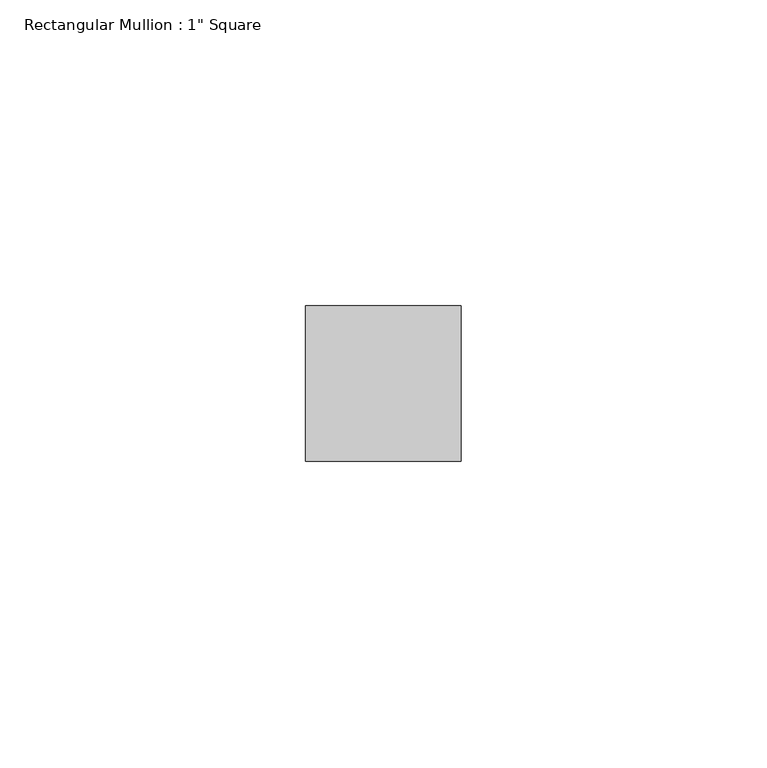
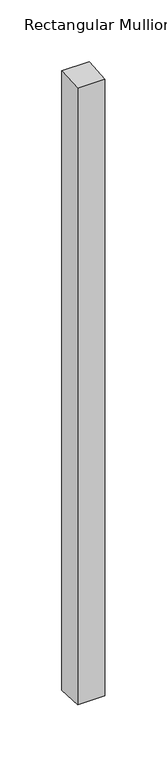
"""IFC4 building model written with IfcOpenShell, lengths in millimetres: member geometry."""

import ifcopenshell
import ifcopenshell.guid

model = None  # the IFC model being written
_history = None  # IfcOwnerHistory: only IFC2X3 demands one
_inside = {}  # id of a spatial element -> (the spatial element, [elements in it])
_under = {}  # id of a project, library or spatial element -> (it, [spatial elements below it])
_declared = {}  # id of a project -> (the project, [libraries it declares])
_typed = {}  # id of a type object -> (the type object, [elements of that type])
_made_of = {}  # id of a material, layer set ... -> (it, [elements and type objects made of it])


def new_model(schema):
    """Start an empty IFC model of exactly this schema.

    Asked for "IFC4X3", IfcOpenShell would pick the latest addendum, in which some entities
    have other attributes; the version numbers below select the first issue.
    IFC2X3 requires an IfcOwnerHistory on every rooted entity: one is made here for all.
    """
    global model, _history
    if schema == "IFC4X3":
        model = ifcopenshell.file(schema_version=(4, 3, 0, 0))
    else:
        model = ifcopenshell.file(schema=schema)
    _inside.clear()
    _under.clear()
    _declared.clear()
    _typed.clear()
    _made_of.clear()
    _history = None
    if model.schema == "IFC2X3":
        org = make("IfcOrganization", Name="unknown")
        user = make(
            "IfcPersonAndOrganization",
            ThePerson=make("IfcPerson", FamilyName="unknown"),
            TheOrganization=org,
        )
        app = make(
            "IfcApplication",
            ApplicationDeveloper=org,
            Version="unknown",
            ApplicationFullName="unknown",
            ApplicationIdentifier="unknown",
        )
        _history = make(
            "IfcOwnerHistory",
            OwningUser=user,
            OwningApplication=app,
            ChangeAction="ADDED",
            CreationDate=0,
        )
    return model


def make(cls, **values):
    """One entity of the class cls with the attributes given. An attribute that is None is left unset."""
    return model.create_entity(
        cls, **{name: value for name, value in values.items() if value is not None}
    )


def rooted(cls, **values):
    """An entity with a GlobalId (a new one), such as an element, a storey or a relation."""
    return make(cls, GlobalId=ifcopenshell.guid.new(), OwnerHistory=_history, **values)


def si_unit(unit_type, name, prefix=None):
    """IfcSIUnit, for example si_unit("LENGTHUNIT", "METRE", prefix="MILLI")."""
    return make("IfcSIUnit", UnitType=unit_type, Prefix=prefix, Name=name)


def assignment(units):
    """IfcUnitAssignment: the units of a project."""
    return None if units is None else make("IfcUnitAssignment", Units=units)


def point(xyz):
    """IfcCartesianPoint."""
    return None if xyz is None else make("IfcCartesianPoint", Coordinates=xyz)


def direction(xyz):
    """IfcDirection."""
    return None if xyz is None else make("IfcDirection", DirectionRatios=xyz)


def frame(location, z_axis=None, x_axis=None):
    """IfcAxis2Placement3D, a coordinate frame: its origin and axes. An axis left out is left unset."""
    return make(
        "IfcAxis2Placement3D",
        Location=point(location),
        Axis=direction(z_axis),
        RefDirection=direction(x_axis),
    )


def origin():
    """The frame at (0, 0, 0) with its axes left unset."""
    return frame((0.0, 0.0, 0.0))


def place(relative_to, where):
    """IfcLocalPlacement: puts the frame where relative to a parent placement (None: the world)."""
    return make(
        "IfcLocalPlacement", PlacementRelTo=relative_to, RelativePlacement=where
    )


def context(
    kind, dimensions, precision=None, world=None, true_north=None, identifier=None
):
    """IfcGeometricRepresentationContext, for example the 3D "Model" context."""
    return make(
        "IfcGeometricRepresentationContext",
        ContextIdentifier=identifier,
        ContextType=kind,
        CoordinateSpaceDimension=dimensions,
        Precision=precision,
        WorldCoordinateSystem=world,
        TrueNorth=true_north,
    )


def project(units=None, contexts=None):
    """IfcProject with its units and contexts."""
    return rooted(
        "IfcProject",
        Name="project",
        RepresentationContexts=contexts,
        UnitsInContext=assignment(units),
    )


def spatial(cls, under=None, at=None, **own):
    """A site, building, storey or space (cls), placed at a placement, below another one or the project."""
    s = rooted(cls, ObjectPlacement=at, **own)
    if under is not None:
        _under.setdefault(under.id(), (under, []))[1].append(s)
    return s


def faces_of(points, faces, orient=None, outer=None):
    """IfcFace entities. A face is a list of loops; a loop is a list of indices into points, from 0.

    orient and outer hold one flag for each loop. By default every Orientation is true, the
    first loop of a face is its IfcFaceOuterBound and the others are IfcFaceBound.
    """
    made = []
    for i, loops in enumerate(faces):
        bounds = []
        for j, loop in enumerate(loops):
            is_outer = j == 0 if outer is None else outer[i][j]
            bounds.append(
                make(
                    "IfcFaceOuterBound" if is_outer else "IfcFaceBound",
                    Bound=make("IfcPolyLoop", Polygon=[points[k] for k in loop]),
                    Orientation=True if orient is None else orient[i][j],
                )
            )
        made.append(make("IfcFace", Bounds=bounds))
    return made


def faceted_brep(points, faces, orient=None, outer=None, voids=None):
    """IfcFacetedBrep: a solid bounded by flat faces; with voids (closed shells), ...WithVoids."""
    shared = [point(p) for p in points]
    hull = make("IfcClosedShell", CfsFaces=faces_of(shared, faces, orient, outer))
    if voids is None:
        return make("IfcFacetedBrep", Outer=hull)
    return make(
        "IfcFacetedBrepWithVoids",
        Outer=hull,
        Voids=[
            make(cls, CfsFaces=faces_of(shared, fs, o, b)) for cls, fs, o, b in voids
        ],
    )


def shape(context_of_items, identifier, shape_type, items):
    """IfcShapeRepresentation: the items that make up one representation, for example the "Body"."""
    return make(
        "IfcShapeRepresentation",
        ContextOfItems=context_of_items,
        RepresentationIdentifier=identifier,
        RepresentationType=shape_type,
        Items=items,
    )


def source(mapping_origin, context_of_items, identifier, shape_type, items):
    """IfcRepresentationMap: a shape defined once, which mapped items show again and again."""
    return make(
        "IfcRepresentationMap",
        MappingOrigin=mapping_origin,
        MappedRepresentation=shape(context_of_items, identifier, shape_type, items),
    )


def transform(
    local_origin,
    x_axis=None,
    y_axis=None,
    z_axis=None,
    scale=None,
    scale2=None,
    scale3=None,
    uniform=True,
):
    """IfcCartesianTransformationOperator3D, or its non-uniform kind. x_axis, y_axis, z_axis: its Axis1, 2, 3."""
    if uniform:
        return make(
            "IfcCartesianTransformationOperator3D",
            Axis1=direction(x_axis),
            Axis2=direction(y_axis),
            LocalOrigin=point(local_origin),
            Scale=scale,
            Axis3=direction(z_axis),
        )
    return make(
        "IfcCartesianTransformationOperator3DnonUniform",
        Axis1=direction(x_axis),
        Axis2=direction(y_axis),
        LocalOrigin=point(local_origin),
        Scale=scale,
        Axis3=direction(z_axis),
        Scale2=scale2,
        Scale3=scale3,
    )


def mapped(mapping_source, mapping_target):
    """IfcMappedItem: shows the shape of a source again, moved by a transform."""
    return make(
        "IfcMappedItem", MappingSource=mapping_source, MappingTarget=mapping_target
    )


def made_of(thing, what):
    """Note that an element or type object is made of a material, layer set ...; save() writes the relation."""
    if what is not None:
        _made_of.setdefault(what.id(), (what, []))[1].append(thing)
    return thing


def element(
    cls,
    number,
    at=None,
    inside=None,
    cuts=None,
    type_object=None,
    material=None,
    context=None,
    identifier="Body",
    shape_type=None,
    held_by="IfcProductDefinitionShape",
    body=None,
    shapes=None,
    **own,
):
    """One element of the class cls, such as IfcWall. Its Tag is "e" and its number.

    at: its placement. inside: the storey or other place that contains it. cuts: it is an
    opening in that element (IfcRelVoidsElement). A single representation is given by context,
    identifier, shape_type and body (its items); several are given by shapes. held_by: the class
    of the entity that holds the representations. save() writes the other relations.
    """
    e = rooted(cls, Tag="e%d" % number, ObjectPlacement=at, **own)
    if body is not None:
        shapes = [shape(context, identifier, shape_type, body)]
    if shapes is not None:
        e.Representation = make(held_by, Representations=shapes)
    if inside is not None:
        _inside.setdefault(inside.id(), (inside, []))[1].append(e)
    if cuts is not None:
        rooted(
            "IfcRelVoidsElement", RelatingBuildingElement=cuts, RelatedOpeningElement=e
        )
    if type_object is not None:
        _typed.setdefault(type_object.id(), (type_object, []))[1].append(e)
    return made_of(e, material)


def aggregate(whole, parts):
    """IfcRelAggregates: a whole, such as a stair, and the parts it consists of."""
    return rooted("IfcRelAggregates", RelatingObject=whole, RelatedObjects=parts)


def save(model, path):
    """Write the relations noted so far, then the file.

    IfcRelAggregates (storeys below a building ...), IfcRelContainedInSpatialStructure (elements
    in a storey), IfcRelDefinesByType, IfcRelAssociatesMaterial and IfcRelDeclares: one each for
    every whole, place, type object, material and project.
    """
    for whole, parts in _under.values():
        aggregate(whole, parts)
    for where, things in _inside.values():
        rooted(
            "IfcRelContainedInSpatialStructure",
            RelatedElements=things,
            RelatingStructure=where,
        )
    for kind, things in _typed.values():
        rooted("IfcRelDefinesByType", RelatedObjects=things, RelatingType=kind)
    for what, things in _made_of.values():
        rooted("IfcRelAssociatesMaterial", RelatedObjects=things, RelatingMaterial=what)
    for by, libraries in _declared.values():
        rooted("IfcRelDeclares", RelatingContext=by, RelatedDefinitions=libraries)
    model.write(path)


def member_8050fb01(model_context):
    return source(origin(), model_context, "Body", "Brep", [
        faceted_brep([(-25.4, 12.7, 0.724299), (0.0, 12.7, 0.7585479), (0.0, 12.7, -610.3585479), (-25.4, 12.7, -610.324299), (-25.4, -12.7, -0.7927967), (-25.4, -12.7, -608.8072033), (0.0, -12.7, -0.7585479), (0.0, -12.7, -608.8414521)], [[[0, 1, 2, 3]], [[4, 0, 3, 5]], [[6, 4, 5, 7]], [[1, 6, 7, 2]], [[1, 0, 4, 6]], [[2, 7, 5, 3]]]),
    ])


if __name__ == "__main__":
    model = new_model("IFC4")
    model_context = context("Model", 3, world=origin())
    ifc_project = project(units=[si_unit("LENGTHUNIT", "METRE", prefix="MILLI")], contexts=[model_context])
    site = spatial("IfcSite", under=ifc_project)
    building = spatial("IfcBuilding", under=site)
    placement = place(None, origin())
    member_shape = member_8050fb01(model_context)
    element("IfcMember", 1, ObjectType="Rectangular Mullion : 1\" Square", at=placement, inside=building, context=model_context, shape_type="MappedRepresentation", body=[
        mapped(member_shape, transform((0.0, 0.0, 0.0), x_axis=(1.0, 0.0, 0.0), y_axis=(0.0, 1.0, 0.0), z_axis=(0.0, 0.0, 1.0))),
    ])
    save(model, "model.ifc")
